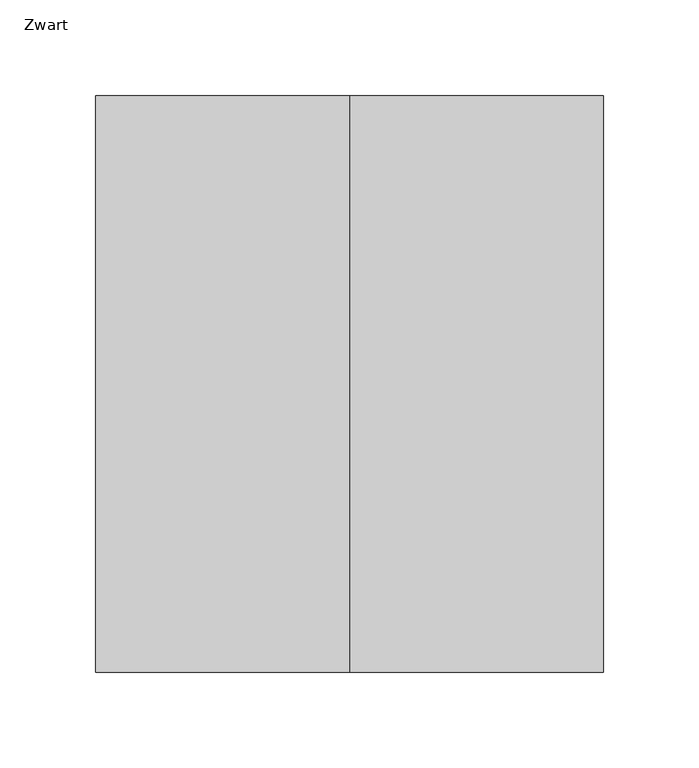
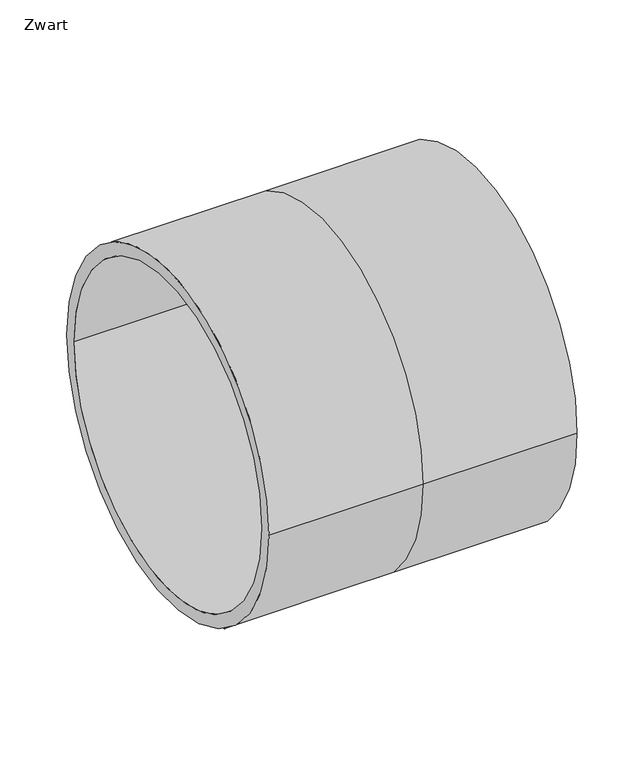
"""IFC4 building model written with IfcOpenShell, lengths in millimetres: pipe fitting geometry, NLRS_52_PIF_UN_Ultra Kyma buis mof_Dyka : Zwart."""

from ifc_helpers import new_model, si_unit, point, frame, frame_2d, origin, place, context, project, spatial, polyline, circle_curve, trimmed, segment, composite_curve, outline, extrude, source, transform, mapped, element, save
from ifc_brep_helpers import plane_surface, cylinder_surface, revolved_surface, advanced_brep


def zwart_6c612464(model_context):
    return source(origin(), model_context, "Body", "SolidModel", [
        advanced_brep(
        [(0.0, -151.0, 0.0), (-133.0, -151.0, 0.0), (-133.0, 151.0, 0.0), (0.0, 151.0, 0.0), (-133.0, 140.0, 0.0), (-133.0, -140.0, 0.0), (0.0, -140.0, 0.0), (0.0, 140.0, 0.0), (133.0, 151.0, 0.0), (133.0, -151.0, 0.0), (133.0, -140.0, 0.0), (133.0, 140.0, 0.0)],
        [
            (0, 1),
            (1, 2, circle_curve(frame((-133.0, 0.0, 0.0), z_axis=(1.0, 0.0, 0.0), x_axis=(0.0, -1.0, 0.0)), 151.0)),
            (2, 3),
            (3, 0, circle_curve(frame((0.0, 0.0, 0.0), z_axis=(-1.0, 0.0, 0.0), x_axis=(0.0, -1.0, 0.0)), 151.0)),
            (4, 5, circle_curve(frame((-133.0, 0.0, 0.0), z_axis=(-1.0, 0.0, 0.0), x_axis=(0.0, -1.0, 0.0)), 140.0)),
            (5, 6),
            (6, 7, circle_curve(frame((0.0, 0.0, 0.0), z_axis=(1.0, 0.0, 0.0), x_axis=(0.0, -1.0, 0.0)), 140.0)),
            (7, 4),
            (0, 3, circle_curve(frame((0.0, 0.0, 0.0), z_axis=(-1.0, 0.0, 0.0), x_axis=(0.0, 1.0, 0.0)), 151.0)),
            (2, 1, circle_curve(frame((-133.0, 0.0, 0.0), z_axis=(1.0, 0.0, 0.0), x_axis=(0.0, 1.0, 0.0)), 151.0)),
            (4, 5, circle_curve(frame((-133.0, 0.0, 0.0), z_axis=(1.0, 0.0, 0.0), x_axis=(0.0, 1.0, 0.0)), 140.0)),
            (7, 6, circle_curve(frame((0.0, 0.0, 0.0), z_axis=(1.0, 0.0, 0.0), x_axis=(0.0, 1.0, 0.0)), 140.0)),
            (8, 9, circle_curve(frame((133.0, 0.0, 0.0), z_axis=(-1.0, 0.0, 0.0), x_axis=(0.0, -1.0, 0.0)), 151.0)),
            (9, 0),
            (3, 8),
            (6, 10),
            (10, 11, circle_curve(frame((133.0, 0.0, 0.0), z_axis=(1.0, 0.0, 0.0), x_axis=(0.0, -1.0, 0.0)), 140.0)),
            (11, 7),
            (9, 8, circle_curve(frame((133.0, 0.0, 0.0), z_axis=(-1.0, 0.0, 0.0), x_axis=(0.0, 1.0, 0.0)), 151.0)),
            (10, 11, circle_curve(frame((133.0, 0.0, 0.0), z_axis=(-1.0, 0.0, 0.0), x_axis=(0.0, 1.0, 0.0)), 140.0)),
        ],
        [
            cylinder_surface(frame((0.0, 0.0, 0.0), z_axis=(1.0, 0.0, 0.0), x_axis=(0.0, -1.0, 0.0)), 151.0),
            revolved_surface(polyline([(0.0, -140.0, 0.0), (-133.0, -140.0, 0.0)]), (0.0, 0.0, 0.0), (1.0, 0.0, 0.0)),
            cylinder_surface(frame((0.0, 0.0, 0.0), z_axis=(1.0, 0.0, 0.0), x_axis=(0.0, 1.0, 0.0)), 151.0),
            plane_surface(frame((-133.0, 0.0, 0.0), z_axis=(-1.0, 0.0, 0.0), x_axis=(0.0, 1.0, 0.0))),
            revolved_surface(polyline([(0.0, 140.0, 0.0), (-133.0, 140.0, 0.0)]), (0.0, 0.0, 0.0), (1.0, 0.0, 0.0)),
            revolved_surface(polyline([(133.0, -140.0, 0.0), (0.0, -140.0, 0.0)]), (0.0, 0.0, 0.0), (1.0, 0.0, 0.0)),
            plane_surface(frame((133.0, 0.0, 0.0), z_axis=(1.0, 0.0, 0.0), x_axis=(0.0, 1.0, 0.0))),
            revolved_surface(polyline([(133.0, 140.0, 0.0), (0.0, 140.0, 0.0)]), (0.0, 0.0, 0.0), (1.0, 0.0, 0.0)),
        ],
        [
            (0, [[1, 2, 3, 4]]),
            (1, [[5, 6, 7, 8]]),
            (2, [[-1, 9, -3, 10]]),
            (3, [[-2, -10], [-5, 11]]),
            (4, [[-6, -11, -8, 12]]),
            (0, [[13, 14, -4, 15]]),
            (5, [[16, 17, 18, -7]]),
            (2, [[-14, 19, -15, -9]]),
            (6, [[-13, -19], [-17, 20]]),
            (7, [[-16, -12, -18, -20]]),
        ],
    ),
        extrude(outline(composite_curve([segment(trimmed(circle_curve(frame_2d((9.0, 0.0)), 25.0), [point((6.8211064, 24.9048675))], [point((9.0, 25.0))], False, "CARTESIAN"), True, "CONTINUOUS"), segment(polyline([(9.0, 25.0), (9.0, 0.0), (6.8211064, 24.9048675)]), True, "CONTINUOUS")], self_intersect=False)), frame((0.0, 0.0, -25.0), z_axis=(0.0, 0.0, 1.0), x_axis=(1.0, 0.0, 0.0)), (0.0, 0.0, 1.0), 25.0),
    ])


if __name__ == "__main__":
    model = new_model("IFC4")
    model_context = context("Model", 3, world=origin())
    ifc_project = project(units=[si_unit("LENGTHUNIT", "METRE", prefix="MILLI")], contexts=[model_context])
    site = spatial("IfcSite", under=ifc_project)
    building = spatial("IfcBuilding", under=site)
    placement = place(None, origin())
    zwart_shape = zwart_6c612464(model_context)
    element("IfcPipeFitting", 1, ObjectType="NLRS_52_PIF_UN_Ultra Kyma buis mof_Dyka : Zwart", at=placement, inside=building, context=model_context, shape_type="MappedRepresentation", body=[
        mapped(zwart_shape, transform((0.0, 0.0, 0.0), x_axis=(1.0, 0.0, 0.0), y_axis=(0.0, 1.0, 0.0), z_axis=(0.0, 0.0, 1.0))),
    ])
    save(model, "model.ifc")
